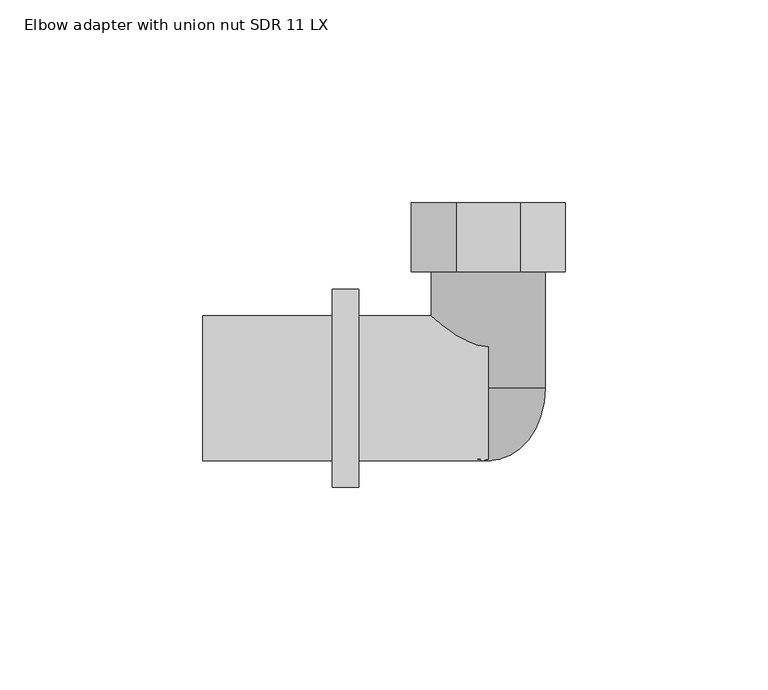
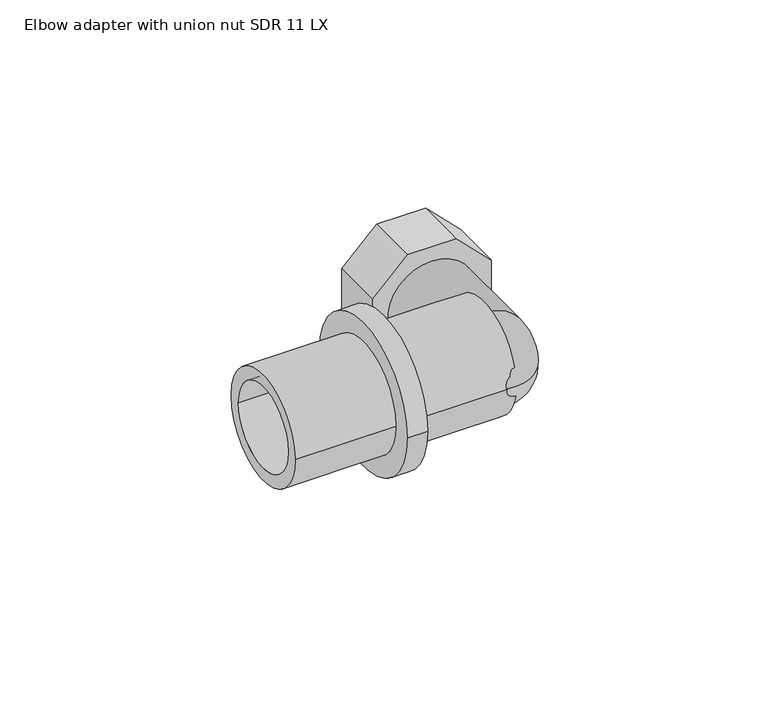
"""IFC4 building model written with IfcOpenShell, lengths in millimetres: pipe fitting geometry, Elbow adapter with union nut SDR11 LX  : Elbow adapter with union nut SDR 11 LX."""

from ifc_helpers import new_model, si_unit, point, frame, origin, origin_2d, place, context, project, spatial, polyline, circle_curve, ellipse_curve, trimmed, segment, composite_curve, outline, extrude, source, transform, mapped, element, save
from ifc_brep_helpers import plane_surface, cylinder_surface, revolved_surface, advanced_brep


def elbow_adapter_with_union_nut_sdr_11_lx_84a4bca8(model_context):
    return source(origin(), model_context, "Body", "SolidModel", [
        extrude(outline(polyline([(-7.8700577, -19.0), (-19.0, -7.8700577), (-19.0, 7.8700577), (-7.8700577, 19.0), (7.8700577, 19.0), (19.0, 7.8700577), (19.0, -7.8700577), (7.8700577, -19.0), (-7.8700577, -19.0)]), holes=[composite_curve([segment(trimmed(circle_curve(origin_2d(), 14.05), [point((-14.05, 0.0))], [point((14.05, 0.0))], True, "CARTESIAN"), True, "CONTINUOUS"), segment(trimmed(circle_curve(origin_2d(), 14.05), [point((14.05, 0.0))], [point((-14.05, 0.0))], True, "CARTESIAN"), True, "CONTINUOUS")], self_intersect=False)]), frame((0.0, 28.8, 0.0), z_axis=(0.0, 1.0, 0.0), x_axis=(0.0, 0.0, 1.0)), (0.0, 0.0, 1.0), 17.0),
        advanced_brep(
        [(-14.05, 0.0, 0.0), (14.05, 0.0, 0.0), (0.0, -17.9, 0.0), (0.0, 0.0, 0.0)],
        [
            (0, 1, circle_curve(frame((0.0, 0.0, 0.0), z_axis=(0.0, -1.0, 0.0), x_axis=(1.0, 0.0, 0.0)), 14.05)),
            (1, 2, ellipse_curve(frame((0.0, 0.0, 0.0), z_axis=(0.0, 0.0, -1.0), x_axis=(0.0, -1.0, 0.0)), 17.9, 14.05)),
            (2, 0, ellipse_curve(frame((0.0, 0.0, 0.0), z_axis=(0.0, 0.0, -1.0), x_axis=(0.0, -1.0, 0.0)), 17.9, 14.05)),
            (1, 0, circle_curve(frame((0.0, 0.0, 0.0), z_axis=(0.0, -1.0, 0.0), x_axis=(1.0, 0.0, 0.0)), 14.05)),
            (3, 1),
            (0, 3),
        ],
        [
            revolved_surface(trimmed(ellipse_curve(frame((0.0, 0.0, 0.0), z_axis=(0.0, 0.0, 1.0), x_axis=(-1.0, 0.0, 0.0)), 14.05, 17.9), [point((0.0, -17.9, 0.0))], [point((14.05, 0.0, 0.0))], True, "CARTESIAN"), (0.0, 0.0, 0.0), (0.0, 1.0, 0.0)),
            plane_surface(frame((0.0, 0.0, 0.0), z_axis=(0.0, 1.0, 0.0), x_axis=(1.0, 0.0, 0.0))),
        ],
        [
            (0, [[1, 2, 3]]),
            (0, [[4, -3, -2]]),
            (1, [[5, -1, 6]]),
            (1, [[-6, -4, -5]]),
        ],
    ),
        extrude(outline(composite_curve([segment(trimmed(circle_curve(origin_2d(), 14.05), [point((0.0, -14.05))], [point((0.0, 14.05))], False, "CARTESIAN"), True, "CONTINUOUS"), segment(trimmed(circle_curve(origin_2d(), 14.05), [point((0.0, 14.05))], [point((0.0, -14.05))], False, "CARTESIAN"), True, "CONTINUOUS")], self_intersect=False), holes=[composite_curve([segment(trimmed(circle_curve(origin_2d(), 10.0), [point((0.0, -10.0))], [point((0.0, 10.0))], True, "CARTESIAN"), True, "CONTINUOUS"), segment(trimmed(circle_curve(origin_2d(), 10.0), [point((0.0, 10.0))], [point((0.0, -10.0))], True, "CARTESIAN"), True, "CONTINUOUS")], self_intersect=False)]), frame((0.0, 0.0, 0.0), z_axis=(0.0, 1.0, 0.0), x_axis=(0.0, 0.0, 1.0)), (0.0, 0.0, 1.0), 36.0),
        advanced_brep(
        [(-32.0, 24.4, 0.0), (-32.0, -24.4, 0.0), (-38.5, -24.4, 0.0), (-38.5, 24.4, 0.0), (-38.5, 17.9, 0.0), (-38.5, -17.9, 0.0), (-70.5, -17.9, 0.0), (-70.5, 17.9, 0.0), (-70.5, 13.75, 0.0), (-70.5, -13.75, 0.0), (-3.840761, -13.75, 0.0), (-3.840761, 13.75, 0.0), (-32.0, -17.9, 0.0), (-32.0, 17.9, 0.0), (0.0, 17.9, 0.0), (0.0, -17.9, 0.0), (0.0, -13.75, 0.0), (0.0, 13.75, 0.0)],
        [
            (0, 1, circle_curve(frame((-32.0, 0.0, 0.0), z_axis=(-1.0, 0.0, 0.0), x_axis=(0.0, -1.0, 0.0)), 24.4)),
            (1, 2),
            (2, 3, circle_curve(frame((-38.5, 0.0, 0.0), z_axis=(1.0, 0.0, 0.0), x_axis=(0.0, -1.0, 0.0)), 24.4)),
            (3, 0),
            (4, 5, circle_curve(frame((-38.5, 0.0, 0.0), z_axis=(-1.0, 0.0, 0.0), x_axis=(0.0, -1.0, 0.0)), 17.9)),
            (5, 6),
            (6, 7, circle_curve(frame((-70.5, 0.0, 0.0), z_axis=(1.0, 0.0, 0.0), x_axis=(0.0, -1.0, 0.0)), 17.9)),
            (7, 4),
            (8, 9, circle_curve(frame((-70.5, 0.0, 0.0), z_axis=(-1.0, 0.0, 0.0), x_axis=(0.0, -1.0, 0.0)), 13.75)),
            (9, 10),
            (10, 11, circle_curve(frame((-3.840761, 0.0, 0.0), z_axis=(1.0, 0.0, 0.0), x_axis=(0.0, -1.0, 0.0)), 13.75)),
            (11, 8),
            (0, 1, circle_curve(frame((-32.0, 0.0, 0.0), z_axis=(1.0, 0.0, 0.0), x_axis=(0.0, 1.0, 0.0)), 24.4)),
            (12, 13, circle_curve(frame((-32.0, 0.0, 0.0), z_axis=(-1.0, 0.0, 0.0), x_axis=(0.0, 1.0, 0.0)), 17.9)),
            (13, 12, circle_curve(frame((-32.0, 0.0, 0.0), z_axis=(-1.0, 0.0, 0.0), x_axis=(0.0, -1.0, 0.0)), 17.9)),
            (3, 2, circle_curve(frame((-38.5, 0.0, 0.0), z_axis=(1.0, 0.0, 0.0), x_axis=(0.0, 1.0, 0.0)), 24.4)),
            (4, 5, circle_curve(frame((-38.5, 0.0, 0.0), z_axis=(1.0, 0.0, 0.0), x_axis=(0.0, 1.0, 0.0)), 17.9)),
            (7, 6, circle_curve(frame((-70.5, 0.0, 0.0), z_axis=(1.0, 0.0, 0.0), x_axis=(0.0, 1.0, 0.0)), 17.9)),
            (8, 9, circle_curve(frame((-70.5, 0.0, 0.0), z_axis=(1.0, 0.0, 0.0), x_axis=(0.0, 1.0, 0.0)), 13.75)),
            (11, 10, circle_curve(frame((-3.840761, 0.0, 0.0), z_axis=(1.0, 0.0, 0.0), x_axis=(0.0, 1.0, 0.0)), 13.75)),
            (14, 15, circle_curve(frame((0.0, 0.0, 0.0), z_axis=(-1.0, 0.0, 0.0), x_axis=(0.0, -1.0, 0.0)), 17.9)),
            (15, 12),
            (13, 14),
            (10, 16),
            (16, 17, circle_curve(frame((0.0, 0.0, 0.0), z_axis=(1.0, 0.0, 0.0), x_axis=(0.0, -1.0, 0.0)), 13.75)),
            (17, 11),
            (15, 14, circle_curve(frame((0.0, 0.0, 0.0), z_axis=(-1.0, 0.0, 0.0), x_axis=(0.0, 1.0, 0.0)), 17.9)),
            (16, 17, circle_curve(frame((0.0, 0.0, 0.0), z_axis=(-1.0, 0.0, 0.0), x_axis=(0.0, 1.0, 0.0)), 13.75)),
        ],
        [
            cylinder_surface(frame((0.0, 0.0, 0.0), z_axis=(1.0, 0.0, 0.0), x_axis=(0.0, -1.0, 0.0)), 24.4),
            cylinder_surface(frame((0.0, 0.0, 0.0), z_axis=(1.0, 0.0, 0.0), x_axis=(0.0, -1.0, 0.0)), 17.9),
            revolved_surface(polyline([(-3.840761, -13.75, 0.0), (-70.5, -13.75, 0.0)]), (0.0, 0.0, 0.0), (1.0, 0.0, 0.0)),
            plane_surface(frame((-32.0, 0.0, 0.0), z_axis=(1.0, 0.0, 0.0), x_axis=(0.0, 1.0, 0.0))),
            cylinder_surface(frame((0.0, 0.0, 0.0), z_axis=(1.0, 0.0, 0.0), x_axis=(0.0, 1.0, 0.0)), 24.4),
            plane_surface(frame((-38.5, 0.0, 0.0), z_axis=(-1.0, 0.0, 0.0), x_axis=(0.0, 1.0, 0.0))),
            cylinder_surface(frame((0.0, 0.0, 0.0), z_axis=(1.0, 0.0, 0.0), x_axis=(0.0, 1.0, 0.0)), 17.9),
            plane_surface(frame((-70.5, 0.0, 0.0), z_axis=(-1.0, 0.0, 0.0), x_axis=(0.0, 1.0, 0.0))),
            revolved_surface(polyline([(-3.840761, 13.75, 0.0), (-70.5, 13.75, 0.0)]), (0.0, 0.0, 0.0), (1.0, 0.0, 0.0)),
            revolved_surface(polyline([(0.0, -13.75, 0.0), (-3.840761, -13.75, 0.0)]), (0.0, 0.0, 0.0), (1.0, 0.0, 0.0)),
            plane_surface(frame((0.0, 0.0, 0.0), z_axis=(1.0, 0.0, 0.0), x_axis=(0.0, 1.0, 0.0))),
            revolved_surface(polyline([(0.0, 13.75, 0.0), (-3.840761, 13.75, 0.0)]), (0.0, 0.0, 0.0), (1.0, 0.0, 0.0)),
        ],
        [
            (0, [[1, 2, 3, 4]]),
            (1, [[5, 6, 7, 8]]),
            (2, [[9, 10, 11, 12]]),
            (3, [[13, -1], [14, 15]]),
            (4, [[-13, -4, 16, -2]]),
            (5, [[-16, -3], [17, -5]]),
            (6, [[-17, -8, 18, -6]]),
            (7, [[-18, -7], [19, -9]]),
            (8, [[-19, -12, 20, -10]]),
            (1, [[21, 22, -15, 23]]),
            (9, [[-11, 24, 25, 26]]),
            (6, [[27, -23, -14, -22]]),
            (10, [[-27, -21], [28, -25]]),
            (11, [[-20, -26, -28, -24]]),
        ],
    ),
    ])


if __name__ == "__main__":
    model = new_model("IFC4")
    model_context = context("Model", 3, world=origin())
    ifc_project = project(units=[si_unit("LENGTHUNIT", "METRE", prefix="MILLI")], contexts=[model_context])
    site = spatial("IfcSite", under=ifc_project)
    building = spatial("IfcBuilding", under=site)
    placement = place(None, origin())
    elbow_adapter_with_union_nut_sdr_11_lx_shape = elbow_adapter_with_union_nut_sdr_11_lx_84a4bca8(model_context)
    element("IfcPipeFitting", 1, ObjectType="Elbow adapter with union nut SDR11 LX  : Elbow adapter with union nut SDR 11 LX", at=placement, inside=building, context=model_context, shape_type="MappedRepresentation", body=[
        mapped(elbow_adapter_with_union_nut_sdr_11_lx_shape, transform((0.0, 0.0, 0.0), x_axis=(1.0, 0.0, 0.0), y_axis=(0.0, 1.0, 0.0), z_axis=(0.0, 0.0, 1.0))),
    ])
    save(model, "model.ifc")
